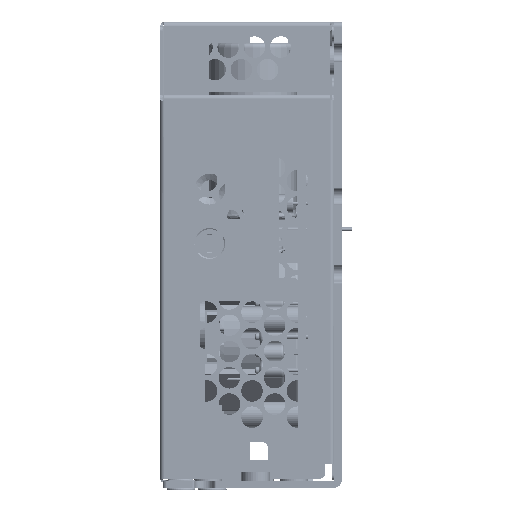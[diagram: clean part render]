
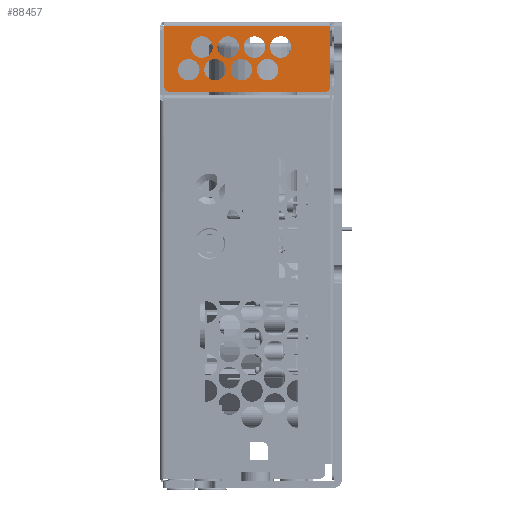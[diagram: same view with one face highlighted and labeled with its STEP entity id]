
A CAD part, left-side view. The second image highlights one B-rep face of the part: STEP entity #88457.
In plain terms, the highlighted planar face has unit normal (-1, 0, 0) as drawn and (0, 1, 0) by its records, which use the part's own axes.
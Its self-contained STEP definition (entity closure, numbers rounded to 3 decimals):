
#69998=DIRECTION('',(0.,0.,-1.));
#69999=VECTOR('',#69998,34.7);
#70000=CARTESIAN_POINT('',(95.,72.,35.6));
#70001=LINE('',#70000,#69999);
#70026=CARTESIAN_POINT('',(82.3,72.,1.9));
#70027=DIRECTION('',(0.,1.,0.));
#70028=DIRECTION('',(0.,0.,-1.));
#70029=AXIS2_PLACEMENT_3D('',#70026,#70027,#70028);
#70031=DIRECTION('',(-1.,0.,0.));
#70032=VECTOR('',#70031,12.4);
#70033=CARTESIAN_POINT('',(94.7,72.,0.9));
#70034=LINE('',#70033,#70032);
#70035=DIRECTION('',(-1.,0.,0.));
#70036=VECTOR('',#70035,0.3);
#70037=CARTESIAN_POINT('',(95.,72.,0.9));
#70038=LINE('',#70037,#70036);
#70039=DIRECTION('',(-1.,0.,0.));
#70040=VECTOR('',#70039,0.129);
#70041=CARTESIAN_POINT('',(95.,72.,35.6));
#70042=LINE('',#70041,#70040);
#70043=DIRECTION('',(1.,0.,0.));
#70044=VECTOR('',#70043,12.571);
#70045=CARTESIAN_POINT('',(82.3,72.,35.6));
#70046=LINE('',#70045,#70044);
#70047=CARTESIAN_POINT('',(82.3,72.,34.6));
#70048=DIRECTION('',(0.,1.,0.));
#70049=DIRECTION('',(-1.,0.,0.));
#70050=AXIS2_PLACEMENT_3D('',#70047,#70048,#70049);
#70052=DIRECTION('',(0.,0.,1.));
#70053=VECTOR('',#70052,32.7);
#70054=CARTESIAN_POINT('',(81.3,72.,1.9));
#70055=LINE('',#70054,#70053);
#70056=CARTESIAN_POINT('',(85.9,72.,6.));
#70057=DIRECTION('',(0.,1.,0.));
#70058=DIRECTION('',(-1.,0.,0.));
#70059=AXIS2_PLACEMENT_3D('',#70056,#70057,#70058);
#70061=CARTESIAN_POINT('',(85.9,72.,6.));
#70062=DIRECTION('',(0.,1.,0.));
#70063=DIRECTION('',(1.,0.,0.));
#70064=AXIS2_PLACEMENT_3D('',#70061,#70062,#70063);
#70066=CARTESIAN_POINT('',(85.9,72.,11.5));
#70067=DIRECTION('',(0.,1.,0.));
#70068=DIRECTION('',(-1.,0.,0.));
#70069=AXIS2_PLACEMENT_3D('',#70066,#70067,#70068);
#70071=CARTESIAN_POINT('',(85.9,72.,11.5));
#70072=DIRECTION('',(0.,1.,0.));
#70073=DIRECTION('',(1.,0.,0.));
#70074=AXIS2_PLACEMENT_3D('',#70071,#70072,#70073);
#70076=CARTESIAN_POINT('',(85.9,72.,17.));
#70077=DIRECTION('',(0.,1.,0.));
#70078=DIRECTION('',(-1.,0.,0.));
#70079=AXIS2_PLACEMENT_3D('',#70076,#70077,#70078);
#70081=CARTESIAN_POINT('',(85.9,72.,17.));
#70082=DIRECTION('',(0.,1.,0.));
#70083=DIRECTION('',(1.,0.,0.));
#70084=AXIS2_PLACEMENT_3D('',#70081,#70082,#70083);
#70086=CARTESIAN_POINT('',(85.9,72.,22.5));
#70087=DIRECTION('',(0.,1.,0.));
#70088=DIRECTION('',(-1.,0.,0.));
#70089=AXIS2_PLACEMENT_3D('',#70086,#70087,#70088);
#70091=CARTESIAN_POINT('',(85.9,72.,22.5));
#70092=DIRECTION('',(0.,1.,0.));
#70093=DIRECTION('',(1.,0.,0.));
#70094=AXIS2_PLACEMENT_3D('',#70091,#70092,#70093);
#70096=CARTESIAN_POINT('',(90.65,72.,8.751));
#70097=DIRECTION('',(0.,1.,0.));
#70098=DIRECTION('',(-1.,0.,0.));
#70099=AXIS2_PLACEMENT_3D('',#70096,#70097,#70098);
#70101=CARTESIAN_POINT('',(90.65,72.,8.751));
#70102=DIRECTION('',(0.,1.,0.));
#70103=DIRECTION('',(1.,0.,0.));
#70104=AXIS2_PLACEMENT_3D('',#70101,#70102,#70103);
#70106=CARTESIAN_POINT('',(90.65,72.,14.251));
#70107=DIRECTION('',(0.,1.,0.));
#70108=DIRECTION('',(-1.,0.,0.));
#70109=AXIS2_PLACEMENT_3D('',#70106,#70107,#70108);
#70111=CARTESIAN_POINT('',(90.65,72.,14.251));
#70112=DIRECTION('',(0.,1.,0.));
#70113=DIRECTION('',(1.,0.,0.));
#70114=AXIS2_PLACEMENT_3D('',#70111,#70112,#70113);
#70116=CARTESIAN_POINT('',(90.65,72.,19.751));
#70117=DIRECTION('',(0.,1.,0.));
#70118=DIRECTION('',(-1.,0.,0.));
#70119=AXIS2_PLACEMENT_3D('',#70116,#70117,#70118);
#70121=CARTESIAN_POINT('',(90.65,72.,19.751));
#70122=DIRECTION('',(0.,1.,0.));
#70123=DIRECTION('',(1.,0.,0.));
#70124=AXIS2_PLACEMENT_3D('',#70121,#70122,#70123);
#70126=CARTESIAN_POINT('',(90.65,72.,25.251));
#70127=DIRECTION('',(0.,1.,0.));
#70128=DIRECTION('',(-1.,0.,0.));
#70129=AXIS2_PLACEMENT_3D('',#70126,#70127,#70128);
#70131=CARTESIAN_POINT('',(90.65,72.,25.251));
#70132=DIRECTION('',(0.,1.,0.));
#70133=DIRECTION('',(1.,0.,0.));
#70134=AXIS2_PLACEMENT_3D('',#70131,#70132,#70133);
#73438=CARTESIAN_POINT('',(94.871,72.,35.6));
#73440=VERTEX_POINT('',#73438);
#73472=CARTESIAN_POINT('',(95.,72.,35.6));
#73473=CARTESIAN_POINT('',(95.,72.,0.9));
#73474=VERTEX_POINT('',#73472);
#73475=VERTEX_POINT('',#73473);
#73480=CARTESIAN_POINT('',(94.7,72.,0.9));
#73481=VERTEX_POINT('',#73480);
#73564=CARTESIAN_POINT('',(82.3,72.,0.9));
#73565=VERTEX_POINT('',#73564);
#73566=CARTESIAN_POINT('',(81.3,72.,1.9));
#73567=VERTEX_POINT('',#73566);
#73572=CARTESIAN_POINT('',(81.3,72.,34.6));
#73573=VERTEX_POINT('',#73572);
#73574=CARTESIAN_POINT('',(82.3,72.,35.6));
#73575=VERTEX_POINT('',#73574);
#73712=CARTESIAN_POINT('',(83.65,72.,6.));
#73713=CARTESIAN_POINT('',(88.15,72.,6.));
#73714=VERTEX_POINT('',#73712);
#73715=VERTEX_POINT('',#73713);
#73720=CARTESIAN_POINT('',(83.65,72.,11.5));
#73721=CARTESIAN_POINT('',(88.15,72.,11.5));
#73722=VERTEX_POINT('',#73720);
#73723=VERTEX_POINT('',#73721);
#73728=CARTESIAN_POINT('',(83.65,72.,17.));
#73729=CARTESIAN_POINT('',(88.15,72.,17.));
#73730=VERTEX_POINT('',#73728);
#73731=VERTEX_POINT('',#73729);
#73736=CARTESIAN_POINT('',(83.65,72.,22.5));
#73737=CARTESIAN_POINT('',(88.15,72.,22.5));
#73738=VERTEX_POINT('',#73736);
#73739=VERTEX_POINT('',#73737);
#73744=CARTESIAN_POINT('',(88.4,72.,8.751));
#73745=CARTESIAN_POINT('',(92.9,72.,8.751));
#73746=VERTEX_POINT('',#73744);
#73747=VERTEX_POINT('',#73745);
#73752=CARTESIAN_POINT('',(88.4,72.,14.251));
#73753=CARTESIAN_POINT('',(92.9,72.,14.251));
#73754=VERTEX_POINT('',#73752);
#73755=VERTEX_POINT('',#73753);
#73760=CARTESIAN_POINT('',(88.4,72.,19.751));
#73761=CARTESIAN_POINT('',(92.9,72.,19.751));
#73762=VERTEX_POINT('',#73760);
#73763=VERTEX_POINT('',#73761);
#73768=CARTESIAN_POINT('',(88.4,72.,25.251));
#73769=CARTESIAN_POINT('',(92.9,72.,25.251));
#73770=VERTEX_POINT('',#73768);
#73771=VERTEX_POINT('',#73769);
#88387=CARTESIAN_POINT('',(95.3,72.,27.355));
#88388=DIRECTION('',(0.,1.,0.));
#88389=DIRECTION('',(0.,0.,1.));
#88390=AXIS2_PLACEMENT_3D('',#88387,#88388,#88389);
#88391=PLANE('',#88390);
#88393=ORIENTED_EDGE('',*,*,#88392,.F.);
#88395=ORIENTED_EDGE('',*,*,#88394,.F.);
#88397=ORIENTED_EDGE('',*,*,#88396,.F.);
#88398=ORIENTED_EDGE('',*,*,#88374,.F.);
#88400=ORIENTED_EDGE('',*,*,#88399,.T.);
#88402=ORIENTED_EDGE('',*,*,#88401,.F.);
#88404=ORIENTED_EDGE('',*,*,#88403,.F.);
#88406=ORIENTED_EDGE('',*,*,#88405,.F.);
#88407=EDGE_LOOP('',(#88393,#88395,#88397,#88398,#88400,#88402,#88404,#88406));
#88408=FACE_OUTER_BOUND('',#88407,.F.);
#88410=ORIENTED_EDGE('',*,*,#88409,.T.);
#88412=ORIENTED_EDGE('',*,*,#88411,.T.);
#88413=EDGE_LOOP('',(#88410,#88412));
#88414=FACE_BOUND('',#88413,.F.);
#88416=ORIENTED_EDGE('',*,*,#88415,.T.);
#88418=ORIENTED_EDGE('',*,*,#88417,.T.);
#88419=EDGE_LOOP('',(#88416,#88418));
#88420=FACE_BOUND('',#88419,.F.);
#88422=ORIENTED_EDGE('',*,*,#88421,.T.);
#88424=ORIENTED_EDGE('',*,*,#88423,.T.);
#88425=EDGE_LOOP('',(#88422,#88424));
#88426=FACE_BOUND('',#88425,.F.);
#88428=ORIENTED_EDGE('',*,*,#88427,.T.);
#88430=ORIENTED_EDGE('',*,*,#88429,.T.);
#88431=EDGE_LOOP('',(#88428,#88430));
#88432=FACE_BOUND('',#88431,.F.);
#88434=ORIENTED_EDGE('',*,*,#88433,.T.);
#88436=ORIENTED_EDGE('',*,*,#88435,.T.);
#88437=EDGE_LOOP('',(#88434,#88436));
#88438=FACE_BOUND('',#88437,.F.);
#88440=ORIENTED_EDGE('',*,*,#88439,.T.);
#88442=ORIENTED_EDGE('',*,*,#88441,.T.);
#88443=EDGE_LOOP('',(#88440,#88442));
#88444=FACE_BOUND('',#88443,.F.);
#88446=ORIENTED_EDGE('',*,*,#88445,.T.);
#88448=ORIENTED_EDGE('',*,*,#88447,.T.);
#88449=EDGE_LOOP('',(#88446,#88448));
#88450=FACE_BOUND('',#88449,.F.);
#88452=ORIENTED_EDGE('',*,*,#88451,.T.);
#88454=ORIENTED_EDGE('',*,*,#88453,.T.);
#88455=EDGE_LOOP('',(#88452,#88454));
#88456=FACE_BOUND('',#88455,.F.);
#70030=CIRCLE('',#70029,1.);
#70051=CIRCLE('',#70050,1.);
#70060=CIRCLE('',#70059,2.25);
#70065=CIRCLE('',#70064,2.25);
#70070=CIRCLE('',#70069,2.25);
#70075=CIRCLE('',#70074,2.25);
#70080=CIRCLE('',#70079,2.25);
#70085=CIRCLE('',#70084,2.25);
#70090=CIRCLE('',#70089,2.25);
#70095=CIRCLE('',#70094,2.25);
#70100=CIRCLE('',#70099,2.25);
#70105=CIRCLE('',#70104,2.25);
#70110=CIRCLE('',#70109,2.25);
#70115=CIRCLE('',#70114,2.25);
#70120=CIRCLE('',#70119,2.25);
#70125=CIRCLE('',#70124,2.25);
#70130=CIRCLE('',#70129,2.25);
#70135=CIRCLE('',#70134,2.25);
#88374=EDGE_CURVE('',#73474,#73475,#70001,.T.);
#88392=EDGE_CURVE('',#73565,#73567,#70030,.T.);
#88394=EDGE_CURVE('',#73481,#73565,#70034,.T.);
#88396=EDGE_CURVE('',#73475,#73481,#70038,.T.);
#88399=EDGE_CURVE('',#73474,#73440,#70042,.T.);
#88401=EDGE_CURVE('',#73575,#73440,#70046,.T.);
#88403=EDGE_CURVE('',#73573,#73575,#70051,.T.);
#88405=EDGE_CURVE('',#73567,#73573,#70055,.T.);
#88409=EDGE_CURVE('',#73714,#73715,#70060,.T.);
#88411=EDGE_CURVE('',#73715,#73714,#70065,.T.);
#88415=EDGE_CURVE('',#73722,#73723,#70070,.T.);
#88417=EDGE_CURVE('',#73723,#73722,#70075,.T.);
#88421=EDGE_CURVE('',#73730,#73731,#70080,.T.);
#88423=EDGE_CURVE('',#73731,#73730,#70085,.T.);
#88427=EDGE_CURVE('',#73738,#73739,#70090,.T.);
#88429=EDGE_CURVE('',#73739,#73738,#70095,.T.);
#88433=EDGE_CURVE('',#73746,#73747,#70100,.T.);
#88435=EDGE_CURVE('',#73747,#73746,#70105,.T.);
#88439=EDGE_CURVE('',#73754,#73755,#70110,.T.);
#88441=EDGE_CURVE('',#73755,#73754,#70115,.T.);
#88445=EDGE_CURVE('',#73762,#73763,#70120,.T.);
#88447=EDGE_CURVE('',#73763,#73762,#70125,.T.);
#88451=EDGE_CURVE('',#73770,#73771,#70130,.T.);
#88453=EDGE_CURVE('',#73771,#73770,#70135,.T.);
#88457=ADVANCED_FACE('',(#88408,#88414,#88420,#88426,#88432,#88438,#88444,
#88450,#88456),#88391,.T.);
